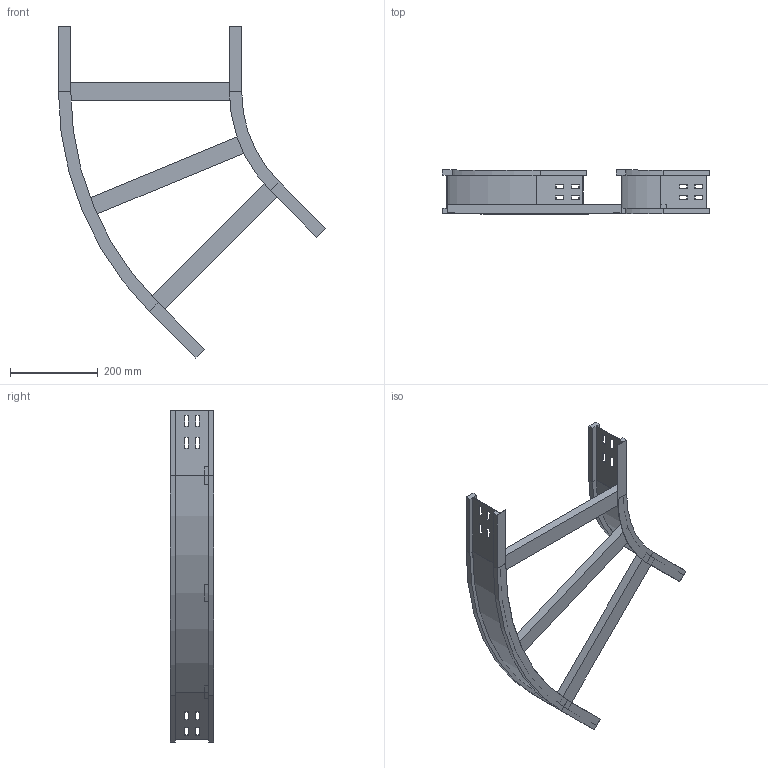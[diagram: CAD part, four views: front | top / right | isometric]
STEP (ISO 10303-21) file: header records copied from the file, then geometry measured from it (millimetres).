
FILE_DESCRIPTION (( 'STEP AP214' ), '1' );
FILE_NAME ('11S3D400.step', '2025-02-21T16:03:09', ( '' ), ( '' ), 'SwSTEP 2.0', 'SolidWorks 2023', '' );
FILE_SCHEMA (( 'AUTOMOTIVE_DESIGN' ));
Length unit declared in the file: millimetre
Products named in the file (4): 11S3D400; LONGH.INTERNO 45°_H100_R300; LONGH.ESTERNO 45°_H100_R300+400; TRAVERSINO_400
Assembly tree (5 placements, depth 2):
  11S3D400
    LONGH.INTERNO 45°_H100_R300
    LONGH.ESTERNO 45°_H100_R300+400
    TRAVERSINO_400  x3
Bounding box: 609.3 x 100 x 757.4 mm (x, y, z)
Volume: 1693917.4 mm3; surface area: 556987.3 mm2
Topology: 5 solids, 5 shells, 158 faces, 396 edges, 248 vertices
Faces by surface type: plane 146, cylinder 12
Entity records: 4477 total; most frequent: CARTESIAN_POINT 758, ORIENTED_EDGE 744, DIRECTION 704, EDGE_CURVE 372, LINE 348, VECTOR 348, VERTEX_POINT 232, AXIS2_PLACEMENT_3D 178
